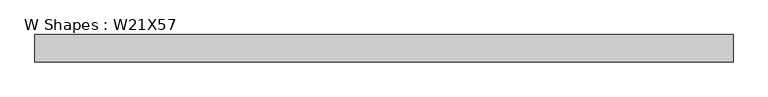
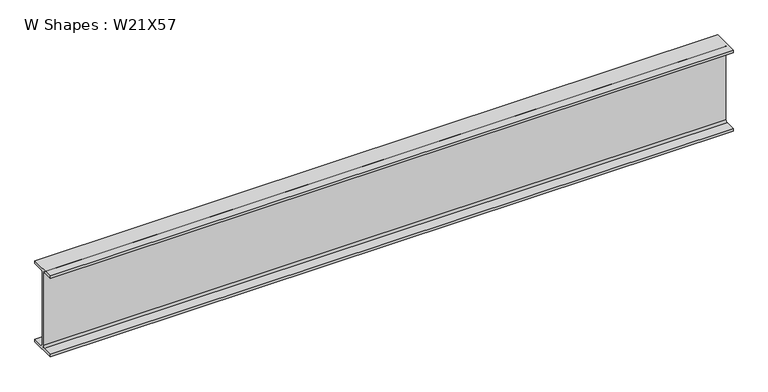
"""IFC4 building model written with IfcOpenShell, lengths in millimetres: beam geometry, W Shapes : W21X57."""

from ifc_helpers import new_model, si_unit, point, frame, frame_2d, origin, place, context, project, spatial, polyline, circle_curve, trimmed, segment, composite_curve, outline, extrude, source, transform, mapped, element, save


def w_shapes_w21x57_95897375(model_context):
    return source(origin(), model_context, "Body", "SweptSolid", [
        extrude(outline(composite_curve([segment(polyline([(83.312, -251.46), (83.312, -267.97), (-83.312, -267.97), (-83.312, -251.46), (-17.907, -251.46)]), True, "CONTINUOUS"), segment(trimmed(circle_curve(frame_2d((-17.907, -238.76)), 12.7), [point((-17.907, -251.46))], [point((-5.207, -238.76))], True, "CARTESIAN"), True, "CONTINUOUS"), segment(polyline([(-5.207, -238.76), (-5.207, 238.76)]), True, "CONTINUOUS"), segment(trimmed(circle_curve(frame_2d((-17.907, 238.76)), 12.7), [point((-5.207, 238.76))], [point((-17.907, 251.46))], True, "CARTESIAN"), True, "CONTINUOUS"), segment(polyline([(-17.907, 251.46), (-83.312, 251.46), (-83.312, 267.97), (83.312, 267.97), (83.312, 251.46), (17.907, 251.46)]), True, "CONTINUOUS"), segment(trimmed(circle_curve(frame_2d((17.907, 238.76)), 12.7), [point((17.907, 251.46))], [point((5.207, 238.76))], True, "CARTESIAN"), True, "CONTINUOUS"), segment(polyline([(5.207, 238.76), (5.207, -238.76)]), True, "CONTINUOUS"), segment(trimmed(circle_curve(frame_2d((17.907, -238.76)), 12.7), [point((5.207, -238.76))], [point((17.907, -251.46))], True, "CARTESIAN"), True, "CONTINUOUS"), segment(polyline([(17.907, -251.46), (83.312, -251.46)]), True, "CONTINUOUS")], self_intersect=False)), frame((-2096.9536354, 0.0, 0.0), z_axis=(1.0, 0.0, 0.0), x_axis=(0.0, 1.0, 0.0)), (0.0, 0.0, 1.0), 4268.7533294),
    ])


if __name__ == "__main__":
    model = new_model("IFC4")
    model_context = context("Model", 3, world=origin())
    ifc_project = project(units=[si_unit("LENGTHUNIT", "METRE", prefix="MILLI")], contexts=[model_context])
    site = spatial("IfcSite", under=ifc_project)
    building = spatial("IfcBuilding", under=site)
    placement = place(None, origin())
    w_shapes_w21x57_shape = w_shapes_w21x57_95897375(model_context)
    element("IfcBeam", 1, ObjectType="W Shapes : W21X57", at=placement, inside=building, context=model_context, shape_type="MappedRepresentation", body=[
        mapped(w_shapes_w21x57_shape, transform((0.0, 0.0, 0.0), x_axis=(1.0, 0.0, 0.0), y_axis=(0.0, 1.0, 0.0), z_axis=(0.0, 0.0, 1.0))),
    ])
    save(model, "model.ifc")
